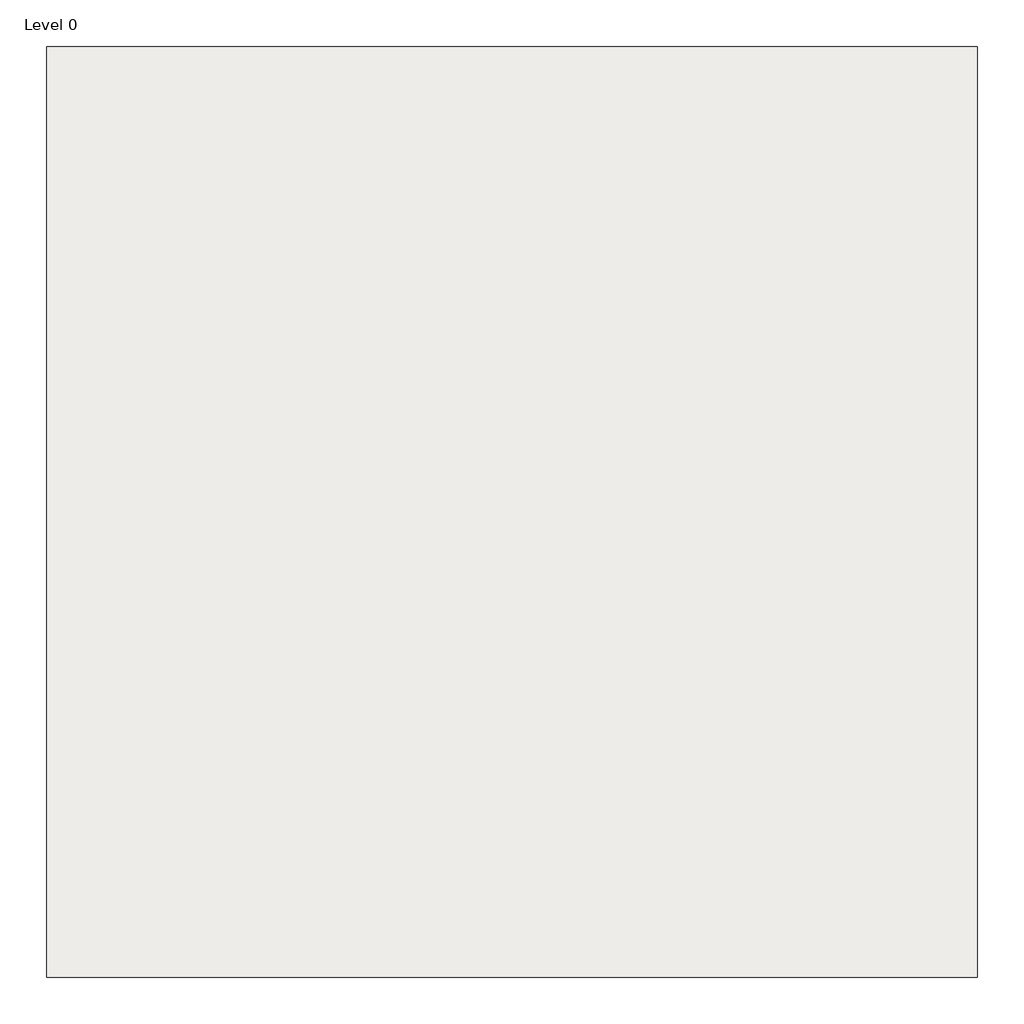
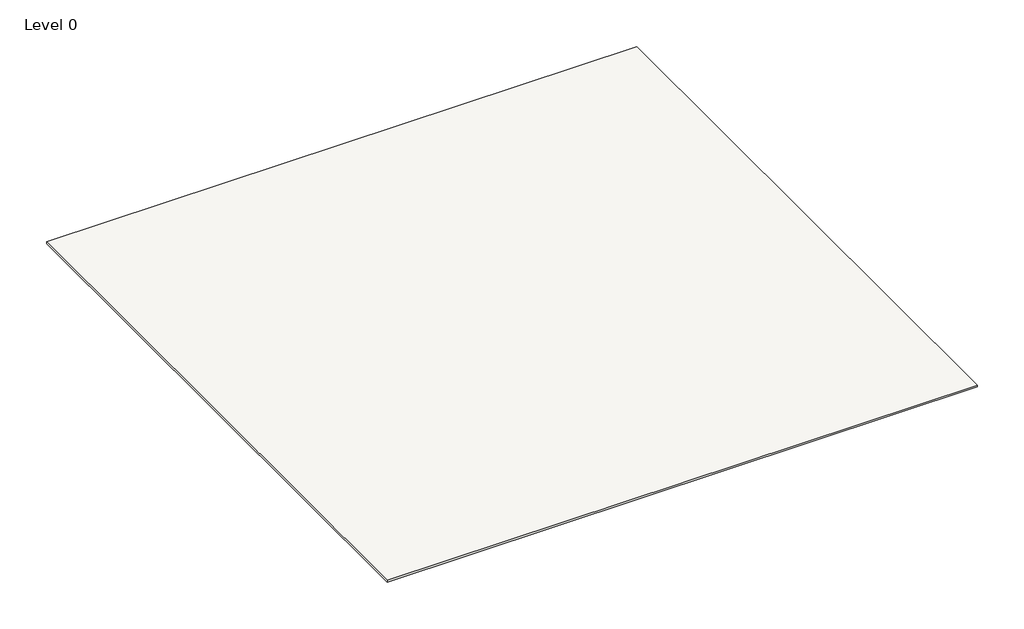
# One storey: 1 covering.
"""IFC4 building model written with IfcOpenShell, lengths in millimetres."""

import ifcopenshell
import ifcopenshell.guid

model = None  # the IFC model being written
_history = None  # IfcOwnerHistory: only IFC2X3 demands one
_inside = {}  # id of a spatial element -> (the spatial element, [elements in it])
_under = {}  # id of a project, library or spatial element -> (it, [spatial elements below it])
_declared = {}  # id of a project -> (the project, [libraries it declares])
_typed = {}  # id of a type object -> (the type object, [elements of that type])
_made_of = {}  # id of a material, layer set ... -> (it, [elements and type objects made of it])


def new_model(schema):
    """Start an empty IFC model of exactly this schema.

    Asked for "IFC4X3", IfcOpenShell would pick the latest addendum, in which some entities
    have other attributes; the version numbers below select the first issue.
    IFC2X3 requires an IfcOwnerHistory on every rooted entity: one is made here for all.
    """
    global model, _history
    if schema == "IFC4X3":
        model = ifcopenshell.file(schema_version=(4, 3, 0, 0))
    else:
        model = ifcopenshell.file(schema=schema)
    _inside.clear()
    _under.clear()
    _declared.clear()
    _typed.clear()
    _made_of.clear()
    _history = None
    if model.schema == "IFC2X3":
        org = make("IfcOrganization", Name="unknown")
        user = make(
            "IfcPersonAndOrganization",
            ThePerson=make("IfcPerson", FamilyName="unknown"),
            TheOrganization=org,
        )
        app = make(
            "IfcApplication",
            ApplicationDeveloper=org,
            Version="unknown",
            ApplicationFullName="unknown",
            ApplicationIdentifier="unknown",
        )
        _history = make(
            "IfcOwnerHistory",
            OwningUser=user,
            OwningApplication=app,
            ChangeAction="ADDED",
            CreationDate=0,
        )
    return model


def make(cls, **values):
    """One entity of the class cls with the attributes given. An attribute that is None is left unset."""
    return model.create_entity(
        cls, **{name: value for name, value in values.items() if value is not None}
    )


def rooted(cls, **values):
    """An entity with a GlobalId (a new one), such as an element, a storey or a relation."""
    return make(cls, GlobalId=ifcopenshell.guid.new(), OwnerHistory=_history, **values)


def si_unit(unit_type, name, prefix=None):
    """IfcSIUnit, for example si_unit("LENGTHUNIT", "METRE", prefix="MILLI")."""
    return make("IfcSIUnit", UnitType=unit_type, Prefix=prefix, Name=name)


def assignment(units):
    """IfcUnitAssignment: the units of a project."""
    return None if units is None else make("IfcUnitAssignment", Units=units)


def point(xyz):
    """IfcCartesianPoint."""
    return None if xyz is None else make("IfcCartesianPoint", Coordinates=xyz)


def direction(xyz):
    """IfcDirection."""
    return None if xyz is None else make("IfcDirection", DirectionRatios=xyz)


def frame(location, z_axis=None, x_axis=None):
    """IfcAxis2Placement3D, a coordinate frame: its origin and axes. An axis left out is left unset."""
    return make(
        "IfcAxis2Placement3D",
        Location=point(location),
        Axis=direction(z_axis),
        RefDirection=direction(x_axis),
    )


def origin():
    """The frame at (0, 0, 0) with its axes left unset."""
    return frame((0.0, 0.0, 0.0))


def origin_with_axes():
    """The frame at (0, 0, 0) with the z axis (0, 0, 1) and the x axis (1, 0, 0) written out."""
    return frame((0.0, 0.0, 0.0), z_axis=(0.0, 0.0, 1.0), x_axis=(1.0, 0.0, 0.0))


def place(relative_to, where):
    """IfcLocalPlacement: puts the frame where relative to a parent placement (None: the world)."""
    return make(
        "IfcLocalPlacement", PlacementRelTo=relative_to, RelativePlacement=where
    )


def context(
    kind, dimensions, precision=None, world=None, true_north=None, identifier=None
):
    """IfcGeometricRepresentationContext, for example the 3D "Model" context."""
    return make(
        "IfcGeometricRepresentationContext",
        ContextIdentifier=identifier,
        ContextType=kind,
        CoordinateSpaceDimension=dimensions,
        Precision=precision,
        WorldCoordinateSystem=world,
        TrueNorth=true_north,
    )


def project(units=None, contexts=None):
    """IfcProject with its units and contexts."""
    return rooted(
        "IfcProject",
        Name="project",
        RepresentationContexts=contexts,
        UnitsInContext=assignment(units),
    )


def spatial(cls, under=None, at=None, **own):
    """A site, building, storey or space (cls), placed at a placement, below another one or the project."""
    s = rooted(cls, ObjectPlacement=at, **own)
    if under is not None:
        _under.setdefault(under.id(), (under, []))[1].append(s)
    return s


def polyline(points):
    """IfcPolyline through the points."""
    return make("IfcPolyline", Points=[point(p) for p in points])


def outline(outer, holes=None, kind="AREA"):
    """IfcArbitraryClosedProfileDef: a profile drawn as a closed curve; with holes, ...WithVoids."""
    if holes is None:
        return make("IfcArbitraryClosedProfileDef", ProfileType=kind, OuterCurve=outer)
    return make(
        "IfcArbitraryProfileDefWithVoids",
        ProfileType=kind,
        OuterCurve=outer,
        InnerCurves=holes,
    )


def extrude(swept, where, along, depth):
    """IfcExtrudedAreaSolid: the profile swept, set in the frame where, extruded along a direction by depth."""
    return make(
        "IfcExtrudedAreaSolid",
        SweptArea=swept,
        Position=where,
        ExtrudedDirection=direction(along),
        Depth=depth,
    )


def shape(context_of_items, identifier, shape_type, items):
    """IfcShapeRepresentation: the items that make up one representation, for example the "Body"."""
    return make(
        "IfcShapeRepresentation",
        ContextOfItems=context_of_items,
        RepresentationIdentifier=identifier,
        RepresentationType=shape_type,
        Items=items,
    )


def made_of(thing, what):
    """Note that an element or type object is made of a material, layer set ...; save() writes the relation."""
    if what is not None:
        _made_of.setdefault(what.id(), (what, []))[1].append(thing)
    return thing


def element(
    cls,
    number,
    at=None,
    inside=None,
    cuts=None,
    type_object=None,
    material=None,
    context=None,
    identifier="Body",
    shape_type=None,
    held_by="IfcProductDefinitionShape",
    body=None,
    shapes=None,
    **own,
):
    """One element of the class cls, such as IfcWall. Its Tag is "e" and its number.

    at: its placement. inside: the storey or other place that contains it. cuts: it is an
    opening in that element (IfcRelVoidsElement). A single representation is given by context,
    identifier, shape_type and body (its items); several are given by shapes. held_by: the class
    of the entity that holds the representations. save() writes the other relations.
    """
    e = rooted(cls, Tag="e%d" % number, ObjectPlacement=at, **own)
    if body is not None:
        shapes = [shape(context, identifier, shape_type, body)]
    if shapes is not None:
        e.Representation = make(held_by, Representations=shapes)
    if inside is not None:
        _inside.setdefault(inside.id(), (inside, []))[1].append(e)
    if cuts is not None:
        rooted(
            "IfcRelVoidsElement", RelatingBuildingElement=cuts, RelatedOpeningElement=e
        )
    if type_object is not None:
        _typed.setdefault(type_object.id(), (type_object, []))[1].append(e)
    return made_of(e, material)


def aggregate(whole, parts):
    """IfcRelAggregates: a whole, such as a stair, and the parts it consists of."""
    return rooted("IfcRelAggregates", RelatingObject=whole, RelatedObjects=parts)


def save(model, path):
    """Write the relations noted so far, then the file.

    IfcRelAggregates (storeys below a building ...), IfcRelContainedInSpatialStructure (elements
    in a storey), IfcRelDefinesByType, IfcRelAssociatesMaterial and IfcRelDeclares: one each for
    every whole, place, type object, material and project.
    """
    for whole, parts in _under.values():
        aggregate(whole, parts)
    for where, things in _inside.values():
        rooted(
            "IfcRelContainedInSpatialStructure",
            RelatedElements=things,
            RelatingStructure=where,
        )
    for kind, things in _typed.values():
        rooted("IfcRelDefinesByType", RelatedObjects=things, RelatingType=kind)
    for what, things in _made_of.values():
        rooted("IfcRelAssociatesMaterial", RelatedObjects=things, RelatingMaterial=what)
    for by, libraries in _declared.values():
        rooted("IfcRelDeclares", RelatingContext=by, RelatedDefinitions=libraries)
    model.write(path)


model = new_model("IFC4")

# Units and contexts
model_context = context("Model", 3, world=origin())
ifc_project = project(units=[si_unit("LENGTHUNIT", "METRE", prefix="MILLI")], contexts=[model_context])

# Site, building, storey
site = spatial("IfcSite", under=ifc_project)
building = spatial("IfcBuilding", under=site)
storey = spatial("IfcBuildingStorey", under=building, Name="Level 0", Elevation=0.0)

# Covering
placement = place(None, origin())
element("IfcCovering", 1, ObjectType="NBS_DeltaMembranes_Damp-proofLathing_Delta-PT", at=placement, inside=storey, context=model_context, shape_type="SweptSolid", body=[
    extrude(outline(polyline([(4387.8819039, 3529.3022109), (4387.8819039, 6029.3022109), (6887.8819039, 6029.3022109), (6887.8819039, 3529.3022109), (4387.8819039, 3529.3022109)])), origin_with_axes(), (0.0, 0.0, 1.0), 8.0),
])

save(model, "model.ifc")
